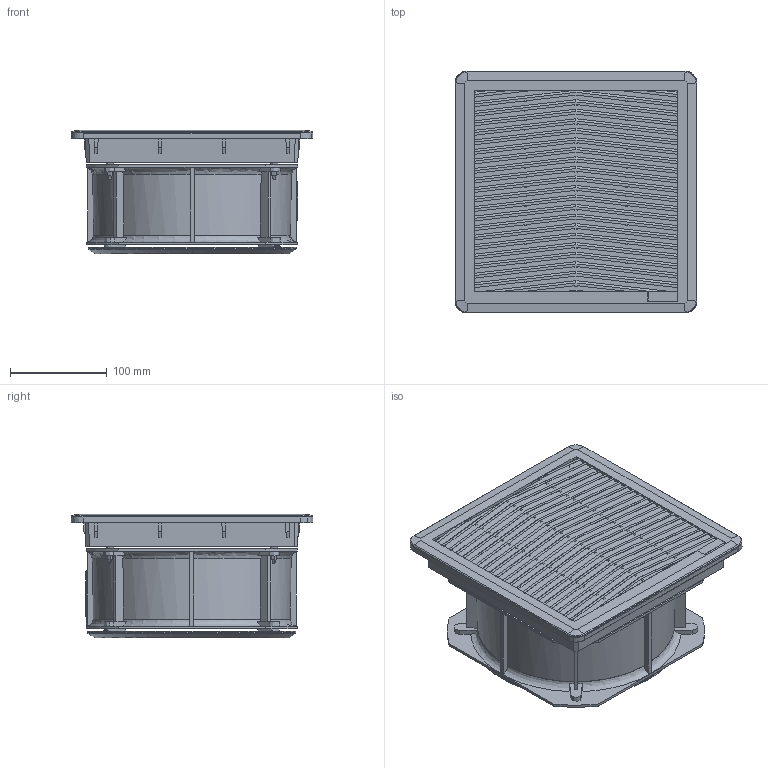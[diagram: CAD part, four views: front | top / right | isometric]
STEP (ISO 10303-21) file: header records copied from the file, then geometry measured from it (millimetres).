
FILE_DESCRIPTION(/* description */ (''),/* implementation_level */ '2;1');
FILE_NAME(/* name */ 'FF15GAxxxyJ',/* time_stamp */ '2025-11-03T09:35:14+01:00',/* author */ (''),/* organization */ (''),/* preprocessor_version */ 'ST-DEVELOPER v16.5',/* originating_system */ 'Rhino 7.38',/* authorisation */ '');
FILE_SCHEMA (('AUTOMOTIVE_DESIGN'));
Length unit declared in the file: millimetre
Products named in the file (12): Document; FF15GAxxxyJ; DT-03230DSI_Assieme semplificato; DT-00158DSI_Sede etichetta semplificato; DT-00159DSI_Base semplificata; DT-04082DSI_mostrina semplificata; GMP200NK_semplificata; DT-02093DSI_C22s semplificato con cond.; DT-02092DSI_b_semplificato; 040014_LK_980-01-4_Semplificata; DT-02091DSI_semplificato; DT-03561DSI_FAR175TP semplificato
Assembly tree (14 placements, depth 4):
  Document
    FF15GAxxxyJ
      DT-03230DSI_Assieme semplificato
        DT-00158DSI_Sede etichetta semplificato
        DT-00159DSI_Base semplificata
        DT-04082DSI_mostrina semplificata
      GMP200NK_semplificata
      DT-02093DSI_C22s semplificato con cond.
        DT-02092DSI_b_semplificato
        040014_LK_980-01-4_Semplificata
        DT-02091DSI_semplificato
      DT-03561DSI_FAR175TP semplificato  x4
Bounding box: 250.12 x 250.08 x 127.87 mm (x, y, z)
Volume: 5162412.3 mm3; surface area: 579609.6 mm2
Topology: 11 solids, 11 shells, 1008 faces, 2813 edges, 1846 vertices
Faces by surface type: plane 789, bspline 157, cylinder 62
Entity records: 39930 total; most frequent: CARTESIAN_POINT 22050, ORIENTED_EDGE 5216, EDGE_CURVE 2608, B_SPLINE_CURVE_WITH_KNOTS 2330, VERTEX_POINT 1714, EDGE_LOOP 944, ADVANCED_FACE 927, FACE_OUTER_BOUND 927
